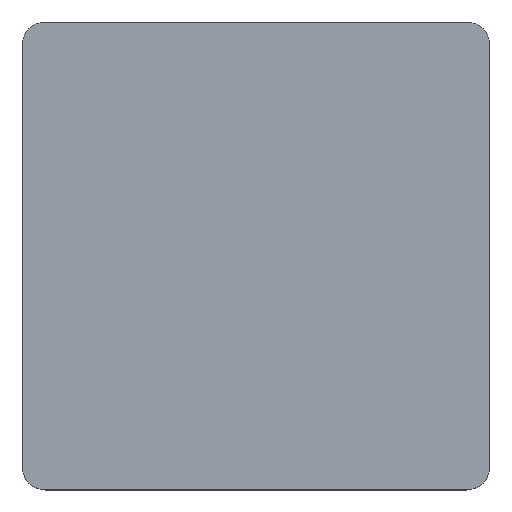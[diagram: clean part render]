
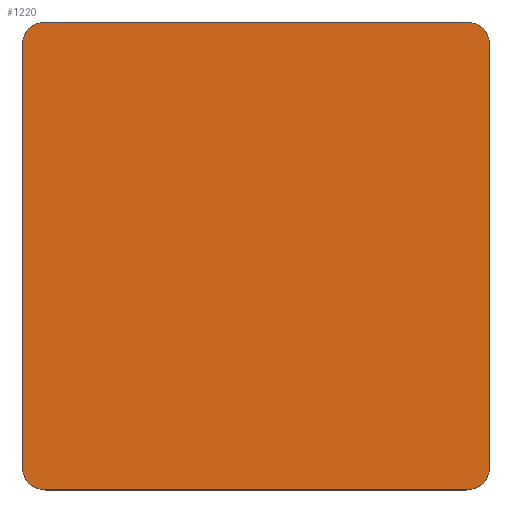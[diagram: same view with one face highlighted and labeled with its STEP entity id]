
A CAD part, top view. The second image highlights one B-rep face of the part: STEP entity #1220.
In plain terms, the highlighted planar face has unit normal (0, 0, 1).
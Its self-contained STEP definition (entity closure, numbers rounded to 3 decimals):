
#110=PLANE('',#1351);
#167=FACE_OUTER_BOUND('',#233,.T.);
#233=EDGE_LOOP('',(#1064,#1065,#1066,#1067,#1068,#1069,#1070,#1071));
#252=LINE('',#1784,#364);
#276=LINE('',#1876,#388);
#279=LINE('',#1884,#391);
#335=LINE('',#2037,#447);
#364=VECTOR('',#1405,10.);
#388=VECTOR('',#1479,10.);
#391=VECTOR('',#1488,10.);
#447=VECTOR('',#1664,10.);
#472=CIRCLE('',#1260,1.);
#495=CIRCLE('',#1286,1.);
#496=CIRCLE('',#1289,1.);
#497=CIRCLE('',#1292,1.);
#528=VERTEX_POINT('',#1771);
#529=VERTEX_POINT('',#1772);
#533=VERTEX_POINT('',#1782);
#575=VERTEX_POINT('',#1870);
#576=VERTEX_POINT('',#1874);
#577=VERTEX_POINT('',#1878);
#578=VERTEX_POINT('',#1882);
#579=VERTEX_POINT('',#1886);
#640=EDGE_CURVE('',#528,#529,#472,.T.);
#646=EDGE_CURVE('',#528,#533,#252,.T.);
#689=EDGE_CURVE('',#575,#533,#495,.T.);
#692=EDGE_CURVE('',#575,#576,#276,.T.);
#693=EDGE_CURVE('',#577,#576,#496,.T.);
#696=EDGE_CURVE('',#577,#578,#279,.T.);
#697=EDGE_CURVE('',#579,#578,#497,.T.);
#771=EDGE_CURVE('',#579,#529,#335,.T.);
#1064=ORIENTED_EDGE('',*,*,#640,.F.);
#1065=ORIENTED_EDGE('',*,*,#646,.T.);
#1066=ORIENTED_EDGE('',*,*,#689,.F.);
#1067=ORIENTED_EDGE('',*,*,#692,.T.);
#1068=ORIENTED_EDGE('',*,*,#693,.F.);
#1069=ORIENTED_EDGE('',*,*,#696,.T.);
#1070=ORIENTED_EDGE('',*,*,#697,.F.);
#1071=ORIENTED_EDGE('',*,*,#771,.T.);
#1220=ADVANCED_FACE('',(#167),#110,.T.);
#1260=AXIS2_PLACEMENT_3D('',#1773,#1395,#1396);
#1286=AXIS2_PLACEMENT_3D('',#1871,#1473,#1474);
#1289=AXIS2_PLACEMENT_3D('',#1879,#1482,#1483);
#1292=AXIS2_PLACEMENT_3D('',#1887,#1491,#1492);
#1351=AXIS2_PLACEMENT_3D('',#2038,#1665,#1666);
#1395=DIRECTION('center_axis',(0.,0.,-1.));
#1396=DIRECTION('ref_axis',(-0.707,0.707,0.));
#1405=DIRECTION('',(0.,-1.,0.));
#1473=DIRECTION('center_axis',(0.,0.,-1.));
#1474=DIRECTION('ref_axis',(-0.707,-0.707,0.));
#1479=DIRECTION('',(1.,0.,0.));
#1482=DIRECTION('center_axis',(0.,0.,-1.));
#1483=DIRECTION('ref_axis',(0.707,-0.707,0.));
#1488=DIRECTION('',(0.,1.,0.));
#1491=DIRECTION('center_axis',(0.,0.,-1.));
#1492=DIRECTION('ref_axis',(0.707,0.707,0.));
#1664=DIRECTION('',(-1.,0.,0.));
#1665=DIRECTION('center_axis',(0.,0.,1.));
#1666=DIRECTION('ref_axis',(1.,0.,0.));
#1771=CARTESIAN_POINT('',(-10.,9.,2.));
#1772=CARTESIAN_POINT('',(-9.,10.,2.));
#1773=CARTESIAN_POINT('Origin',(-9.,9.,2.));
#1782=CARTESIAN_POINT('',(-10.,-9.,2.));
#1784=CARTESIAN_POINT('',(-10.,10.,2.));
#1870=CARTESIAN_POINT('',(-9.,-10.,2.));
#1871=CARTESIAN_POINT('Origin',(-9.,-9.,2.));
#1874=CARTESIAN_POINT('',(9.,-10.,2.));
#1876=CARTESIAN_POINT('',(-10.,-10.,2.));
#1878=CARTESIAN_POINT('',(10.,-9.,2.));
#1879=CARTESIAN_POINT('Origin',(9.,-9.,2.));
#1882=CARTESIAN_POINT('',(10.,9.,2.));
#1884=CARTESIAN_POINT('',(10.,-10.,2.));
#1886=CARTESIAN_POINT('',(9.,10.,2.));
#1887=CARTESIAN_POINT('Origin',(9.,9.,2.));
#2037=CARTESIAN_POINT('',(10.,10.,2.));
#2038=CARTESIAN_POINT('Origin',(0.,0.,2.));
